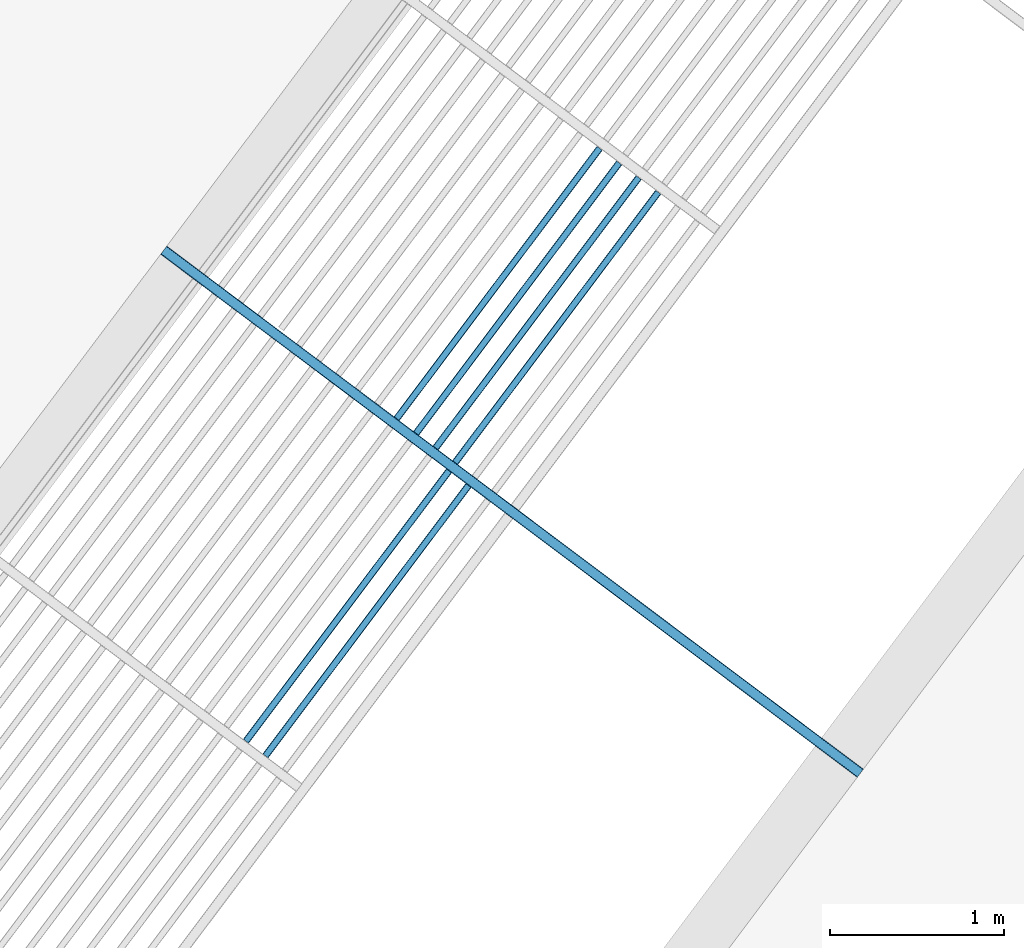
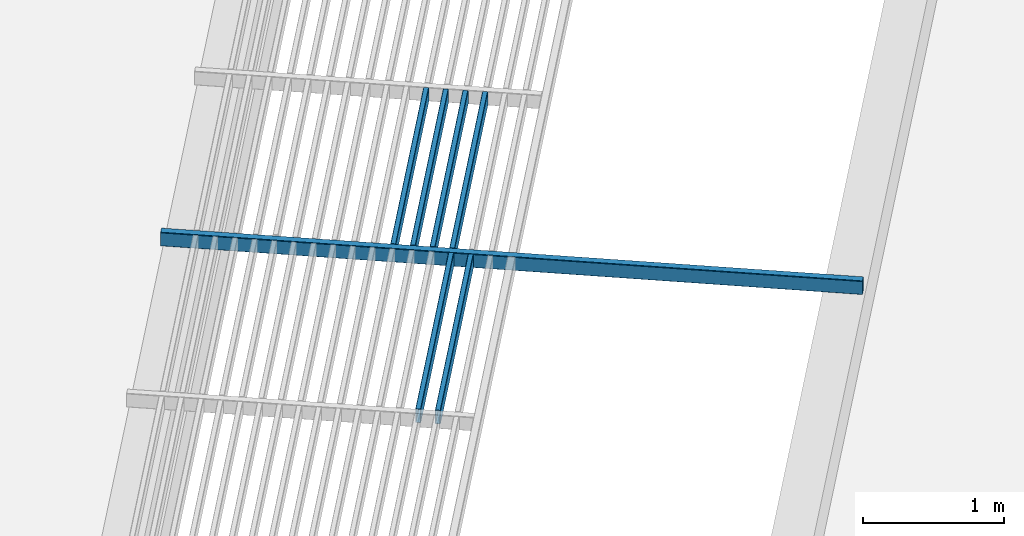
# One storey, part 22 of 95: 7 beams.
"""IFC2X3 building model written with IfcOpenShell, lengths in metres."""

from ifc_helpers import new_model, entity, si_unit, converted_unit, derived_unit, direction, frame, frame_2d, origin, place, context, subcontext, project, spatial, polyline, circle_curve, parameter, trimmed, segment, composite_curve, outline, extrude, material, type_object, element, save


model = new_model("IFC2X3")

# Units and contexts
model_context = context("Model", 3, precision=1e-05, world=origin(), true_north=direction((6.123031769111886e-17, 1.0)))
body_context = subcontext(model_context, "Body", "Model", "MODEL_VIEW")
ifc_project = project(units=[si_unit("LENGTHUNIT", "METRE"), si_unit("AREAUNIT", "SQUARE_METRE"), si_unit("VOLUMEUNIT", "CUBIC_METRE"), converted_unit("PLANEANGLEUNIT", "DEGREE", entity("IfcRatioMeasure", 0.017453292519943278), si_unit("PLANEANGLEUNIT", "RADIAN"), dimensions=[0, 0, 0, 0, 0, 0, 0]), si_unit("MASSUNIT", "GRAM", prefix="KILO"), derived_unit("MASSDENSITYUNIT", [(si_unit("MASSUNIT", "GRAM", prefix="KILO"), 1), (si_unit("LENGTHUNIT", "METRE"), -3)]), derived_unit("IONCONCENTRATIONUNIT", [(si_unit("MASSUNIT", "GRAM", prefix="KILO"), 1), (si_unit("LENGTHUNIT", "METRE"), -3)]), derived_unit("MOMENTOFINERTIAUNIT", [(si_unit("LENGTHUNIT", "METRE"), 4)]), si_unit("TIMEUNIT", "SECOND"), si_unit("FREQUENCYUNIT", "HERTZ"), si_unit("THERMODYNAMICTEMPERATUREUNIT", "DEGREE_CELSIUS"), derived_unit("THERMALTRANSMITTANCEUNIT", [(si_unit("MASSUNIT", "GRAM", prefix="KILO"), 1), (si_unit("THERMODYNAMICTEMPERATUREUNIT", "KELVIN"), -1), (si_unit("TIMEUNIT", "SECOND"), -3)]), derived_unit("THERMALCONDUCTANCEUNIT", [(si_unit("MASSUNIT", "GRAM", prefix="KILO"), 1), (si_unit("THERMODYNAMICTEMPERATUREUNIT", "KELVIN"), -1), (si_unit("TIMEUNIT", "SECOND"), -3), (si_unit("LENGTHUNIT", "METRE"), 1)]), derived_unit("VOLUMETRICFLOWRATEUNIT", [(si_unit("LENGTHUNIT", "METRE"), 3), (si_unit("TIMEUNIT", "SECOND"), -1)]), derived_unit("MASSFLOWRATEUNIT", [(si_unit("MASSUNIT", "GRAM", prefix="KILO"), 1), (si_unit("TIMEUNIT", "SECOND"), -1)]), derived_unit("ROTATIONALFREQUENCYUNIT", [(si_unit("TIMEUNIT", "SECOND"), -1)]), si_unit("ELECTRICCURRENTUNIT", "AMPERE"), si_unit("ELECTRICVOLTAGEUNIT", "VOLT"), si_unit("POWERUNIT", "WATT"), si_unit("FORCEUNIT", "NEWTON", prefix="KILO"), si_unit("ILLUMINANCEUNIT", "LUX"), si_unit("LUMINOUSFLUXUNIT", "LUMEN"), si_unit("LUMINOUSINTENSITYUNIT", "CANDELA"), derived_unit("USERDEFINED", [(si_unit("MASSUNIT", "GRAM", prefix="KILO"), -1), (si_unit("LENGTHUNIT", "METRE"), -2), (si_unit("TIMEUNIT", "SECOND"), 3), (si_unit("LUMINOUSFLUXUNIT", "LUMEN"), 1)]), derived_unit("USERDEFINED", [(si_unit("MASSUNIT", "GRAM", prefix="KILO"), 1), (si_unit("TIMEUNIT", "SECOND"), -3), (si_unit("LENGTHUNIT", "METRE"), 3), (si_unit("ELECTRICCURRENTUNIT", "AMPERE"), -2)]), derived_unit("SOUNDPOWERUNIT", [(si_unit("MASSUNIT", "GRAM", prefix="KILO"), 1), (si_unit("TIMEUNIT", "SECOND"), -3), (si_unit("LENGTHUNIT", "METRE"), 2)]), derived_unit("SOUNDPRESSUREUNIT", [(si_unit("MASSUNIT", "GRAM", prefix="KILO"), 1), (si_unit("LENGTHUNIT", "METRE"), -1), (si_unit("TIMEUNIT", "SECOND"), -2)]), derived_unit("LINEARVELOCITYUNIT", [(si_unit("LENGTHUNIT", "METRE"), 1), (si_unit("TIMEUNIT", "SECOND"), -1)]), si_unit("PRESSUREUNIT", "PASCAL"), derived_unit("USERDEFINED", [(si_unit("MASSUNIT", "GRAM", prefix="KILO"), 1), (si_unit("LENGTHUNIT", "METRE"), -2), (si_unit("TIMEUNIT", "SECOND"), -2)]), derived_unit("LINEARFORCEUNIT", [(si_unit("MASSUNIT", "GRAM", prefix="KILO"), 1), (si_unit("TIMEUNIT", "SECOND"), -2)]), derived_unit("PLANARFORCEUNIT", [(si_unit("MASSUNIT", "GRAM", prefix="KILO"), 1), (si_unit("LENGTHUNIT", "METRE"), -1), (si_unit("TIMEUNIT", "SECOND"), -2)]), derived_unit("SPECIFICHEATCAPACITYUNIT", [(si_unit("THERMODYNAMICTEMPERATUREUNIT", "KELVIN"), -1), (si_unit("LENGTHUNIT", "METRE"), 2), (si_unit("TIMEUNIT", "SECOND"), -2)]), derived_unit("HEATINGVALUEUNIT", [(si_unit("LENGTHUNIT", "METRE"), 2), (si_unit("TIMEUNIT", "SECOND"), -2)]), derived_unit("VAPORPERMEABILITYUNIT", [(si_unit("LENGTHUNIT", "METRE"), -1), (si_unit("TIMEUNIT", "SECOND"), 1)]), derived_unit("DYNAMICVISCOSITYUNIT", [(si_unit("MASSUNIT", "GRAM", prefix="KILO"), 1), (si_unit("TIMEUNIT", "SECOND"), -1), (si_unit("LENGTHUNIT", "METRE"), -1)]), derived_unit("THERMALEXPANSIONCOEFFICIENTUNIT", [(si_unit("THERMODYNAMICTEMPERATUREUNIT", "KELVIN"), -1)]), derived_unit("MODULUSOFELASTICITYUNIT", [(si_unit("MASSUNIT", "GRAM", prefix="KILO"), 1), (si_unit("LENGTHUNIT", "METRE"), -1), (si_unit("TIMEUNIT", "SECOND"), -2)]), derived_unit("ISOTHERMALMOISTURECAPACITYUNIT", [(si_unit("LENGTHUNIT", "METRE"), 3), (si_unit("MASSUNIT", "GRAM", prefix="KILO"), -1)]), derived_unit("MOISTUREDIFFUSIVITYUNIT", [(si_unit("TIMEUNIT", "SECOND"), -1), (si_unit("LENGTHUNIT", "METRE"), 2)])], contexts=[model_context])

# Site, building, storey
site_placement = place(None, origin())
site = spatial("IfcSite", under=ifc_project, at=site_placement, Name="Default", CompositionType="ELEMENT")
building_placement = place(site_placement, frame((0.0, 0.0, 235.0), z_axis=(0.0, 0.0, 1.0), x_axis=(-0.7996477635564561, 0.6004693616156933, 0.0)))
building = spatial("IfcBuilding", under=site, at=building_placement, CompositionType="ELEMENT")
storey_placement = place(building_placement, frame((0.0, 0.0, 3.400000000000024)))
storey = spatial("IfcBuildingStorey", under=building, at=storey_placement, Name="PC- Coberta STR", CompositionType="ELEMENT", Elevation=3.400000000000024)

# Beams
ifc_material = material(Name="_Acer- STR")
beam_type_1 = type_object("IfcBeamType", Name="STR- V- Acer- RHS- Rectangular- T1:120x60RHS", PredefinedType="NOTDEFINED")
beam_1_placement = place(storey_placement, frame((23.645147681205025, -24.446787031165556, 0.49840472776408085), z_axis=(0.0, 0.0, 1.0), x_axis=(-1.0, 0.0, 0.0)))
element("IfcBeam", 1, at=beam_1_placement, inside=storey, type_object=beam_type_1, material=ifc_material, Name="STR- V- Acer- RHS- Rectangular- T1:120x60RHS", ObjectType="STR- V- Acer- RHS- Rectangular- T1:120x60RHS", context=body_context, shape_type="SweptSolid", body=[
    extrude(outline(composite_curve([segment(trimmed(circle_curve(frame_2d((-0.021999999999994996, -0.05200000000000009), x_axis=(1.0, 0.0)), 0.008), [parameter(180.0000000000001)], [parameter(269.99999999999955)], True, "PARAMETER"), True, "CONTINUOUS"), segment(polyline([(-0.02199999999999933, -0.05999999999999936), (0.021999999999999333, -0.05999999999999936)]), True, "CONTINUOUS"), segment(trimmed(circle_curve(frame_2d((0.022000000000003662, -0.05200000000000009), x_axis=(1.0, 0.0)), 0.008), [parameter(269.99999999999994)], [parameter(5.088887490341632e-14)], True, "PARAMETER"), True, "CONTINUOUS"), segment(polyline([(0.030000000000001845, -0.05199999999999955), (0.030000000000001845, 0.05200000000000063)]), True, "CONTINUOUS"), segment(trimmed(circle_curve(frame_2d((0.022000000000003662, 0.05200000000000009), x_axis=(1.0, 0.0)), 0.008), [parameter(359.99999999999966)], [parameter(89.99999999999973)], True, "PARAMETER"), True, "CONTINUOUS"), segment(polyline([(0.021999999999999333, 0.060000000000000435), (-0.02199999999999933, 0.060000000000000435)]), True, "CONTINUOUS"), segment(trimmed(circle_curve(frame_2d((-0.021999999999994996, 0.05200000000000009), x_axis=(1.0, 0.0)), 0.008), [parameter(90.00000000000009)], [parameter(180.00000000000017)], True, "PARAMETER"), True, "CONTINUOUS"), segment(polyline([(-0.02999999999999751, 0.05200000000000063), (-0.02999999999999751, -0.05199999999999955)]), True, "CONTINUOUS")], self_intersect=False), holes=[composite_curve([segment(polyline([(0.021999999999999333, -0.05600000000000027), (-0.02199999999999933, -0.05600000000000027)]), True, "CONTINUOUS"), segment(trimmed(circle_curve(frame_2d((-0.021999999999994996, -0.05200000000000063), x_axis=(1.0, 0.0)), 0.004), [parameter(179.99999999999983)], [parameter(269.9999999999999)], True, "PARAMETER"), False, "CONTINUOUS"), segment(polyline([(-0.02599999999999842, -0.05200000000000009), (-0.02599999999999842, 0.05199999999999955)]), True, "CONTINUOUS"), segment(trimmed(circle_curve(frame_2d((-0.021999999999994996, 0.051999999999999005), x_axis=(1.0, 0.0)), 0.004), [parameter(90.00000000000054)], [parameter(180.00000000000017)], True, "PARAMETER"), False, "CONTINUOUS"), segment(polyline([(-0.02199999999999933, 0.05599999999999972), (0.021999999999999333, 0.05599999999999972)]), True, "CONTINUOUS"), segment(trimmed(circle_curve(frame_2d((0.022000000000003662, 0.051999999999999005), x_axis=(1.0, 0.0)), 0.004), [parameter(0.0)], [parameter(90.00000000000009)], True, "PARAMETER"), False, "CONTINUOUS"), segment(polyline([(0.02599999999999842, 0.05199999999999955), (0.02599999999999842, -0.05200000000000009)]), True, "CONTINUOUS"), segment(trimmed(circle_curve(frame_2d((0.022000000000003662, -0.05200000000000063), x_axis=(1.0, 0.0)), 0.004), [parameter(270.00000000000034)], [parameter(3.5622212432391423e-13)], True, "PARAMETER"), False, "CONTINUOUS")], self_intersect=False)]), frame((-5.0, -0.03159527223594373, 0.061595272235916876), z_axis=(1.0, 0.0, 0.0), x_axis=(0.0, -1.0, 0.0)), (0.0, 0.0, 1.0), 5.000000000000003),
])
beam_type_2 = type_object("IfcBeamType", Name="STR- V- Acer- RHS- Rectangular- T1:120x40RHS -", PredefinedType="NOTDEFINED")
beam_2_placement = place(storey_placement, frame((26.55355240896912, -24.385191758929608, 0.49840472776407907), z_axis=(0.0, 0.0, 1.0), x_axis=(0.0, -1.0, 0.0)))
element("IfcBeam", 2, at=beam_2_placement, inside=storey, type_object=beam_type_2, material=ifc_material, Name="STR- V- Acer- RHS- Rectangular- T1:120x40RHS -", ObjectType="STR- V- Acer- RHS- Rectangular- T1:120x40RHS -", context=body_context, shape_type="SweptSolid", body=[
    extrude(outline(composite_curve([segment(trimmed(circle_curve(frame_2d((-0.013999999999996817, -0.05400000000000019), x_axis=(1.0, 0.0)), 0.006), [parameter(180.0000000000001)], [parameter(269.99999999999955)], True, "PARAMETER"), True, "CONTINUOUS"), segment(polyline([(-0.014000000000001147, -0.06000000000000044), (0.01400000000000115, -0.06000000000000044)]), True, "CONTINUOUS"), segment(trimmed(circle_curve(frame_2d((0.01400000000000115, -0.05400000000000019), x_axis=(1.0, 0.0)), 0.006), [parameter(269.99999999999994)], [parameter(1.0177774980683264e-13)], True, "PARAMETER"), True, "CONTINUOUS"), segment(polyline([(0.019999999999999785, -0.05400000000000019), (0.019999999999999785, 0.05399999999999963)]), True, "CONTINUOUS"), segment(trimmed(circle_curve(frame_2d((0.01400000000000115, 0.05399999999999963), x_axis=(1.0, 0.0)), 0.006), [parameter(359.9999999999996)], [parameter(89.99999999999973)], True, "PARAMETER"), True, "CONTINUOUS"), segment(polyline([(0.01400000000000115, 0.05999999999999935), (-0.014000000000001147, 0.05999999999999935)]), True, "CONTINUOUS"), segment(trimmed(circle_curve(frame_2d((-0.013999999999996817, 0.05399999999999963), x_axis=(1.0, 0.0)), 0.006), [parameter(90.00000000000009)], [parameter(180.00000000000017)], True, "PARAMETER"), True, "CONTINUOUS"), segment(polyline([(-0.019999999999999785, 0.05399999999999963), (-0.019999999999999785, -0.05400000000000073)]), True, "CONTINUOUS")], self_intersect=False), holes=[composite_curve([segment(polyline([(0.01400000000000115, -0.05700000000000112), (-0.014000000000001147, -0.05700000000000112)]), True, "CONTINUOUS"), segment(trimmed(circle_curve(frame_2d((-0.013999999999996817, -0.05400000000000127), x_axis=(1.0, 0.0)), 0.003), [parameter(179.99999999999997)], [parameter(269.9999999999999)], True, "PARAMETER"), False, "CONTINUOUS"), segment(polyline([(-0.01700000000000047, -0.05400000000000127), (-0.01700000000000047, 0.05399999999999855)]), True, "CONTINUOUS"), segment(trimmed(circle_curve(frame_2d((-0.013999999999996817, 0.05399999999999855), x_axis=(1.0, 0.0)), 0.003), [parameter(90.00000000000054)], [parameter(180.0000000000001)], True, "PARAMETER"), False, "CONTINUOUS"), segment(polyline([(-0.014000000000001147, 0.05699999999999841), (0.01400000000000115, 0.05699999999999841)]), True, "CONTINUOUS"), segment(trimmed(circle_curve(frame_2d((0.01400000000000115, 0.05399999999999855), x_axis=(1.0, 0.0)), 0.003), [parameter(0.0)], [parameter(90.00000000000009)], True, "PARAMETER"), False, "CONTINUOUS"), segment(polyline([(0.017000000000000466, 0.05399999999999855), (0.017000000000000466, -0.05400000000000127)]), True, "CONTINUOUS"), segment(trimmed(circle_curve(frame_2d((0.01400000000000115, -0.05400000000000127), x_axis=(1.0, 0.0)), 0.003), [parameter(270.00000000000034)], [parameter(3.053332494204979e-13)], True, "PARAMETER"), False, "CONTINUOUS")], self_intersect=False)]), frame((-1.9399999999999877, 0.021595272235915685, 0.06159527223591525), z_axis=(1.0, 0.0, 0.0), x_axis=(0.0, -1.0, 0.0)), (0.0, 0.0, 1.0), 1.9399999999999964),
])
beam_3_placement = place(storey_placement, frame((26.413552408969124, -24.385191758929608, 0.49840472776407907), z_axis=(0.0, 0.0, 1.0), x_axis=(0.0, -1.0, 0.0)))
element("IfcBeam", 3, at=beam_3_placement, inside=storey, type_object=beam_type_2, material=ifc_material, Name="STR- V- Acer- RHS- Rectangular- T1:120x40RHS -", ObjectType="STR- V- Acer- RHS- Rectangular- T1:120x40RHS -", context=body_context, shape_type="SweptSolid", body=[
    extrude(outline(composite_curve([segment(trimmed(circle_curve(frame_2d((-0.013999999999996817, -0.05400000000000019), x_axis=(1.0, 0.0)), 0.006), [parameter(180.0000000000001)], [parameter(269.99999999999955)], True, "PARAMETER"), True, "CONTINUOUS"), segment(polyline([(-0.014000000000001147, -0.06000000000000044), (0.01400000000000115, -0.06000000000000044)]), True, "CONTINUOUS"), segment(trimmed(circle_curve(frame_2d((0.01400000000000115, -0.05400000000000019), x_axis=(1.0, 0.0)), 0.006), [parameter(269.99999999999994)], [parameter(1.0177774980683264e-13)], True, "PARAMETER"), True, "CONTINUOUS"), segment(polyline([(0.019999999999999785, -0.05400000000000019), (0.019999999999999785, 0.05399999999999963)]), True, "CONTINUOUS"), segment(trimmed(circle_curve(frame_2d((0.01400000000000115, 0.05399999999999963), x_axis=(1.0, 0.0)), 0.006), [parameter(359.9999999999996)], [parameter(89.99999999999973)], True, "PARAMETER"), True, "CONTINUOUS"), segment(polyline([(0.01400000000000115, 0.05999999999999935), (-0.014000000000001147, 0.05999999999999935)]), True, "CONTINUOUS"), segment(trimmed(circle_curve(frame_2d((-0.013999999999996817, 0.05399999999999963), x_axis=(1.0, 0.0)), 0.006), [parameter(90.00000000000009)], [parameter(180.00000000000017)], True, "PARAMETER"), True, "CONTINUOUS"), segment(polyline([(-0.019999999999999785, 0.05399999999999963), (-0.019999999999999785, -0.05400000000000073)]), True, "CONTINUOUS")], self_intersect=False), holes=[composite_curve([segment(polyline([(0.01400000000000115, -0.05700000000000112), (-0.014000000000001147, -0.05700000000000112)]), True, "CONTINUOUS"), segment(trimmed(circle_curve(frame_2d((-0.013999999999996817, -0.05400000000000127), x_axis=(1.0, 0.0)), 0.003), [parameter(179.99999999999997)], [parameter(269.9999999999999)], True, "PARAMETER"), False, "CONTINUOUS"), segment(polyline([(-0.01700000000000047, -0.05400000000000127), (-0.01700000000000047, 0.05399999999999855)]), True, "CONTINUOUS"), segment(trimmed(circle_curve(frame_2d((-0.013999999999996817, 0.05399999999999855), x_axis=(1.0, 0.0)), 0.003), [parameter(90.00000000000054)], [parameter(180.0000000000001)], True, "PARAMETER"), False, "CONTINUOUS"), segment(polyline([(-0.014000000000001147, 0.05699999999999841), (0.01400000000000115, 0.05699999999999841)]), True, "CONTINUOUS"), segment(trimmed(circle_curve(frame_2d((0.01400000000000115, 0.05399999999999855), x_axis=(1.0, 0.0)), 0.003), [parameter(0.0)], [parameter(90.00000000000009)], True, "PARAMETER"), False, "CONTINUOUS"), segment(polyline([(0.017000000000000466, 0.05399999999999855), (0.017000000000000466, -0.05400000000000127)]), True, "CONTINUOUS"), segment(trimmed(circle_curve(frame_2d((0.01400000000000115, -0.05400000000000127), x_axis=(1.0, 0.0)), 0.003), [parameter(270.00000000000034)], [parameter(3.053332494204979e-13)], True, "PARAMETER"), False, "CONTINUOUS")], self_intersect=False)]), frame((-1.9399999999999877, 0.021595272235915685, 0.06159527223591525), z_axis=(1.0, 0.0, 0.0), x_axis=(0.0, -1.0, 0.0)), (0.0, 0.0, 1.0), 1.9399999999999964),
])
beam_4_placement = place(storey_placement, frame((26.973552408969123, -26.385191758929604, 0.49840472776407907), z_axis=(0.0, 0.0, 1.0), x_axis=(0.0, -1.0, 0.0)))
element("IfcBeam", 4, at=beam_4_placement, inside=storey, type_object=beam_type_2, material=ifc_material, Name="STR- V- Acer- RHS- Rectangular- T1:120x40RHS -", ObjectType="STR- V- Acer- RHS- Rectangular- T1:120x40RHS -", context=body_context, shape_type="SweptSolid", body=[
    extrude(outline(composite_curve([segment(trimmed(circle_curve(frame_2d((-0.01400000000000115, -0.05400000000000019), x_axis=(1.0, 0.0)), 0.006), [parameter(180.0000000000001)], [parameter(269.99999999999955)], True, "PARAMETER"), True, "CONTINUOUS"), segment(polyline([(-0.01400000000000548, -0.06000000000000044), (0.013999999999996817, -0.06000000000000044)]), True, "CONTINUOUS"), segment(trimmed(circle_curve(frame_2d((0.013999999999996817, -0.05400000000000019), x_axis=(1.0, 0.0)), 0.006), [parameter(269.99999999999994)], [parameter(1.0177774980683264e-13)], True, "PARAMETER"), True, "CONTINUOUS"), segment(polyline([(0.019999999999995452, -0.05400000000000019), (0.019999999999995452, 0.05399999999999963)]), True, "CONTINUOUS"), segment(trimmed(circle_curve(frame_2d((0.013999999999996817, 0.05399999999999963), x_axis=(1.0, 0.0)), 0.006), [parameter(359.9999999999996)], [parameter(89.99999999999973)], True, "PARAMETER"), True, "CONTINUOUS"), segment(polyline([(0.013999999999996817, 0.05999999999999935), (-0.01400000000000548, 0.05999999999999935)]), True, "CONTINUOUS"), segment(trimmed(circle_curve(frame_2d((-0.01400000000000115, 0.05399999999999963), x_axis=(1.0, 0.0)), 0.006), [parameter(90.00000000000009)], [parameter(180.00000000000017)], True, "PARAMETER"), True, "CONTINUOUS"), segment(polyline([(-0.02000000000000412, 0.05399999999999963), (-0.02000000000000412, -0.05400000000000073)]), True, "CONTINUOUS")], self_intersect=False), holes=[composite_curve([segment(polyline([(0.013999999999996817, -0.05700000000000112), (-0.01400000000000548, -0.05700000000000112)]), True, "CONTINUOUS"), segment(trimmed(circle_curve(frame_2d((-0.01400000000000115, -0.05400000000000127), x_axis=(1.0, 0.0)), 0.003), [parameter(179.99999999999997)], [parameter(269.9999999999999)], True, "PARAMETER"), False, "CONTINUOUS"), segment(polyline([(-0.017000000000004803, -0.05400000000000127), (-0.017000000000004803, 0.05399999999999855)]), True, "CONTINUOUS"), segment(trimmed(circle_curve(frame_2d((-0.01400000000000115, 0.05399999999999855), x_axis=(1.0, 0.0)), 0.003), [parameter(90.00000000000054)], [parameter(180.0000000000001)], True, "PARAMETER"), False, "CONTINUOUS"), segment(polyline([(-0.01400000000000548, 0.05699999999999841), (0.013999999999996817, 0.05699999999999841)]), True, "CONTINUOUS"), segment(trimmed(circle_curve(frame_2d((0.013999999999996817, 0.05399999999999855), x_axis=(1.0, 0.0)), 0.003), [parameter(0.0)], [parameter(90.00000000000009)], True, "PARAMETER"), False, "CONTINUOUS"), segment(polyline([(0.016999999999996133, 0.05399999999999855), (0.016999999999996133, -0.05400000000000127)]), True, "CONTINUOUS"), segment(trimmed(circle_curve(frame_2d((0.013999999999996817, -0.05400000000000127), x_axis=(1.0, 0.0)), 0.003), [parameter(270.00000000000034)], [parameter(3.053332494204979e-13)], True, "PARAMETER"), False, "CONTINUOUS")], self_intersect=False)]), frame((-1.9399999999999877, 0.02159527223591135, 0.06159527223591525), z_axis=(1.0, 0.0, 0.0), x_axis=(0.0, -1.0, 0.0)), (0.0, 0.0, 1.0), 1.9399999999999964),
])
beam_5_placement = place(storey_placement, frame((26.833552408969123, -26.385191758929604, 0.49840472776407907), z_axis=(0.0, 0.0, 1.0), x_axis=(0.0, -1.0, 0.0)))
element("IfcBeam", 5, at=beam_5_placement, inside=storey, type_object=beam_type_2, material=ifc_material, Name="STR- V- Acer- RHS- Rectangular- T1:120x40RHS -", ObjectType="STR- V- Acer- RHS- Rectangular- T1:120x40RHS -", context=body_context, shape_type="SweptSolid", body=[
    extrude(outline(composite_curve([segment(trimmed(circle_curve(frame_2d((-0.01400000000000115, -0.05400000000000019), x_axis=(1.0, 0.0)), 0.006), [parameter(180.0000000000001)], [parameter(269.99999999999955)], True, "PARAMETER"), True, "CONTINUOUS"), segment(polyline([(-0.01400000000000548, -0.06000000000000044), (0.013999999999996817, -0.06000000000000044)]), True, "CONTINUOUS"), segment(trimmed(circle_curve(frame_2d((0.013999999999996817, -0.05400000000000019), x_axis=(1.0, 0.0)), 0.006), [parameter(269.99999999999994)], [parameter(1.0177774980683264e-13)], True, "PARAMETER"), True, "CONTINUOUS"), segment(polyline([(0.019999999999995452, -0.05400000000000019), (0.019999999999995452, 0.05399999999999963)]), True, "CONTINUOUS"), segment(trimmed(circle_curve(frame_2d((0.013999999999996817, 0.05399999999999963), x_axis=(1.0, 0.0)), 0.006), [parameter(359.9999999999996)], [parameter(89.99999999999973)], True, "PARAMETER"), True, "CONTINUOUS"), segment(polyline([(0.013999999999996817, 0.05999999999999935), (-0.01400000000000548, 0.05999999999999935)]), True, "CONTINUOUS"), segment(trimmed(circle_curve(frame_2d((-0.01400000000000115, 0.05399999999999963), x_axis=(1.0, 0.0)), 0.006), [parameter(90.00000000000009)], [parameter(180.00000000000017)], True, "PARAMETER"), True, "CONTINUOUS"), segment(polyline([(-0.02000000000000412, 0.05399999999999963), (-0.02000000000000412, -0.05400000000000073)]), True, "CONTINUOUS")], self_intersect=False), holes=[composite_curve([segment(polyline([(0.013999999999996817, -0.05700000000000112), (-0.01400000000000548, -0.05700000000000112)]), True, "CONTINUOUS"), segment(trimmed(circle_curve(frame_2d((-0.01400000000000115, -0.05400000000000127), x_axis=(1.0, 0.0)), 0.003), [parameter(179.99999999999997)], [parameter(269.9999999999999)], True, "PARAMETER"), False, "CONTINUOUS"), segment(polyline([(-0.017000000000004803, -0.05400000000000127), (-0.017000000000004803, 0.05399999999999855)]), True, "CONTINUOUS"), segment(trimmed(circle_curve(frame_2d((-0.01400000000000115, 0.05399999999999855), x_axis=(1.0, 0.0)), 0.003), [parameter(90.00000000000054)], [parameter(180.0000000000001)], True, "PARAMETER"), False, "CONTINUOUS"), segment(polyline([(-0.01400000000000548, 0.05699999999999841), (0.013999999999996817, 0.05699999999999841)]), True, "CONTINUOUS"), segment(trimmed(circle_curve(frame_2d((0.013999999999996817, 0.05399999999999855), x_axis=(1.0, 0.0)), 0.003), [parameter(0.0)], [parameter(90.00000000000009)], True, "PARAMETER"), False, "CONTINUOUS"), segment(polyline([(0.016999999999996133, 0.05399999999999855), (0.016999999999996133, -0.05400000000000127)]), True, "CONTINUOUS"), segment(trimmed(circle_curve(frame_2d((0.013999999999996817, -0.05400000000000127), x_axis=(1.0, 0.0)), 0.003), [parameter(270.00000000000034)], [parameter(3.053332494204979e-13)], True, "PARAMETER"), False, "CONTINUOUS")], self_intersect=False)]), frame((-1.9399999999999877, 0.02159527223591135, 0.06159527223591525), z_axis=(1.0, 0.0, 0.0), x_axis=(0.0, -1.0, 0.0)), (0.0, 0.0, 1.0), 1.9399999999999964),
])
beam_6_placement = place(storey_placement, frame((26.693552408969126, -26.385191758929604, 0.49840472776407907), z_axis=(0.0, 0.0, 1.0), x_axis=(0.0, -1.0, 0.0)))
element("IfcBeam", 6, at=beam_6_placement, inside=storey, type_object=beam_type_2, material=ifc_material, Name="STR- V- Acer- RHS- Rectangular- T1:120x40RHS -", ObjectType="STR- V- Acer- RHS- Rectangular- T1:120x40RHS -", context=body_context, shape_type="SweptSolid", body=[
    extrude(outline(composite_curve([segment(trimmed(circle_curve(frame_2d((-0.013999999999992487, -0.05400000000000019), x_axis=(1.0, 0.0)), 0.006), [parameter(180.0000000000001)], [parameter(269.99999999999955)], True, "PARAMETER"), True, "CONTINUOUS"), segment(polyline([(-0.013999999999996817, -0.06000000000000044), (0.01400000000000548, -0.06000000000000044)]), True, "CONTINUOUS"), segment(trimmed(circle_curve(frame_2d((0.01400000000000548, -0.05400000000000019), x_axis=(1.0, 0.0)), 0.006), [parameter(269.99999999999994)], [parameter(1.0177774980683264e-13)], True, "PARAMETER"), True, "CONTINUOUS"), segment(polyline([(0.020000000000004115, -0.05400000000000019), (0.020000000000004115, 0.05399999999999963)]), True, "CONTINUOUS"), segment(trimmed(circle_curve(frame_2d((0.01400000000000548, 0.05399999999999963), x_axis=(1.0, 0.0)), 0.006), [parameter(359.9999999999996)], [parameter(89.99999999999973)], True, "PARAMETER"), True, "CONTINUOUS"), segment(polyline([(0.01400000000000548, 0.05999999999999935), (-0.013999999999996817, 0.05999999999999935)]), True, "CONTINUOUS"), segment(trimmed(circle_curve(frame_2d((-0.013999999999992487, 0.05399999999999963), x_axis=(1.0, 0.0)), 0.006), [parameter(90.00000000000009)], [parameter(180.00000000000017)], True, "PARAMETER"), True, "CONTINUOUS"), segment(polyline([(-0.019999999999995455, 0.05399999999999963), (-0.019999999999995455, -0.05400000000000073)]), True, "CONTINUOUS")], self_intersect=False), holes=[composite_curve([segment(polyline([(0.01400000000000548, -0.05700000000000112), (-0.013999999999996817, -0.05700000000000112)]), True, "CONTINUOUS"), segment(trimmed(circle_curve(frame_2d((-0.013999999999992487, -0.05400000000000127), x_axis=(1.0, 0.0)), 0.003), [parameter(179.99999999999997)], [parameter(269.9999999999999)], True, "PARAMETER"), False, "CONTINUOUS"), segment(polyline([(-0.01699999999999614, -0.05400000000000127), (-0.01699999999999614, 0.05399999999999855)]), True, "CONTINUOUS"), segment(trimmed(circle_curve(frame_2d((-0.013999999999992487, 0.05399999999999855), x_axis=(1.0, 0.0)), 0.003), [parameter(90.00000000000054)], [parameter(180.0000000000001)], True, "PARAMETER"), False, "CONTINUOUS"), segment(polyline([(-0.013999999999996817, 0.05699999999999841), (0.01400000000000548, 0.05699999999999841)]), True, "CONTINUOUS"), segment(trimmed(circle_curve(frame_2d((0.01400000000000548, 0.05399999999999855), x_axis=(1.0, 0.0)), 0.003), [parameter(0.0)], [parameter(90.00000000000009)], True, "PARAMETER"), False, "CONTINUOUS"), segment(polyline([(0.017000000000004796, 0.05399999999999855), (0.017000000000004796, -0.05400000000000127)]), True, "CONTINUOUS"), segment(trimmed(circle_curve(frame_2d((0.01400000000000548, -0.05400000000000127), x_axis=(1.0, 0.0)), 0.003), [parameter(270.00000000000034)], [parameter(3.053332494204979e-13)], True, "PARAMETER"), False, "CONTINUOUS")], self_intersect=False)]), frame((-1.9399999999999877, 0.021595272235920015, 0.06159527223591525), z_axis=(1.0, 0.0, 0.0), x_axis=(0.0, -1.0, 0.0)), (0.0, 0.0, 1.0), 1.9399999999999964),
])
beam_7_placement = place(storey_placement, frame((26.553552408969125, -26.385191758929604, 0.49840472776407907), z_axis=(0.0, 0.0, 1.0), x_axis=(0.0, -1.0, 0.0)))
element("IfcBeam", 7, at=beam_7_placement, inside=storey, type_object=beam_type_2, material=ifc_material, Name="STR- V- Acer- RHS- Rectangular- T1:120x40RHS -", ObjectType="STR- V- Acer- RHS- Rectangular- T1:120x40RHS -", context=body_context, shape_type="SweptSolid", body=[
    extrude(outline(composite_curve([segment(trimmed(circle_curve(frame_2d((-0.013999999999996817, -0.05400000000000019), x_axis=(1.0, 0.0)), 0.006), [parameter(180.0000000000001)], [parameter(269.99999999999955)], True, "PARAMETER"), True, "CONTINUOUS"), segment(polyline([(-0.014000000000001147, -0.06000000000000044), (0.01400000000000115, -0.06000000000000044)]), True, "CONTINUOUS"), segment(trimmed(circle_curve(frame_2d((0.01400000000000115, -0.05400000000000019), x_axis=(1.0, 0.0)), 0.006), [parameter(269.99999999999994)], [parameter(1.0177774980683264e-13)], True, "PARAMETER"), True, "CONTINUOUS"), segment(polyline([(0.019999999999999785, -0.05400000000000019), (0.019999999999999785, 0.05399999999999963)]), True, "CONTINUOUS"), segment(trimmed(circle_curve(frame_2d((0.01400000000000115, 0.05399999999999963), x_axis=(1.0, 0.0)), 0.006), [parameter(359.9999999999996)], [parameter(89.99999999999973)], True, "PARAMETER"), True, "CONTINUOUS"), segment(polyline([(0.01400000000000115, 0.05999999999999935), (-0.014000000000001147, 0.05999999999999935)]), True, "CONTINUOUS"), segment(trimmed(circle_curve(frame_2d((-0.013999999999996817, 0.05399999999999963), x_axis=(1.0, 0.0)), 0.006), [parameter(90.00000000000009)], [parameter(180.00000000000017)], True, "PARAMETER"), True, "CONTINUOUS"), segment(polyline([(-0.019999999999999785, 0.05399999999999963), (-0.019999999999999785, -0.05400000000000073)]), True, "CONTINUOUS")], self_intersect=False), holes=[composite_curve([segment(polyline([(0.01400000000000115, -0.05700000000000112), (-0.014000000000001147, -0.05700000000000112)]), True, "CONTINUOUS"), segment(trimmed(circle_curve(frame_2d((-0.013999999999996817, -0.05400000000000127), x_axis=(1.0, 0.0)), 0.003), [parameter(179.99999999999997)], [parameter(269.9999999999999)], True, "PARAMETER"), False, "CONTINUOUS"), segment(polyline([(-0.01700000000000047, -0.05400000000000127), (-0.01700000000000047, 0.05399999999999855)]), True, "CONTINUOUS"), segment(trimmed(circle_curve(frame_2d((-0.013999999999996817, 0.05399999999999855), x_axis=(1.0, 0.0)), 0.003), [parameter(90.00000000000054)], [parameter(180.0000000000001)], True, "PARAMETER"), False, "CONTINUOUS"), segment(polyline([(-0.014000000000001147, 0.05699999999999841), (0.01400000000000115, 0.05699999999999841)]), True, "CONTINUOUS"), segment(trimmed(circle_curve(frame_2d((0.01400000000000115, 0.05399999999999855), x_axis=(1.0, 0.0)), 0.003), [parameter(0.0)], [parameter(90.00000000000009)], True, "PARAMETER"), False, "CONTINUOUS"), segment(polyline([(0.017000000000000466, 0.05399999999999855), (0.017000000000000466, -0.05400000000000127)]), True, "CONTINUOUS"), segment(trimmed(circle_curve(frame_2d((0.01400000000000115, -0.05400000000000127), x_axis=(1.0, 0.0)), 0.003), [parameter(270.00000000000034)], [parameter(3.053332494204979e-13)], True, "PARAMETER"), False, "CONTINUOUS")], self_intersect=False)]), frame((-1.9399999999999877, 0.021595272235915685, 0.06159527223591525), z_axis=(1.0, 0.0, 0.0), x_axis=(0.0, -1.0, 0.0)), (0.0, 0.0, 1.0), 1.9399999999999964),
])

save(model, "model.ifc")
